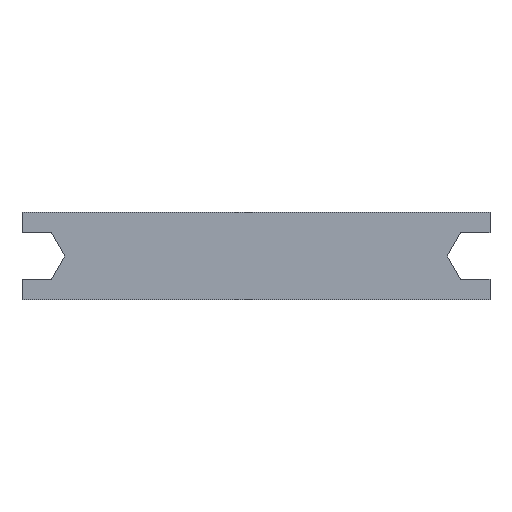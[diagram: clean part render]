
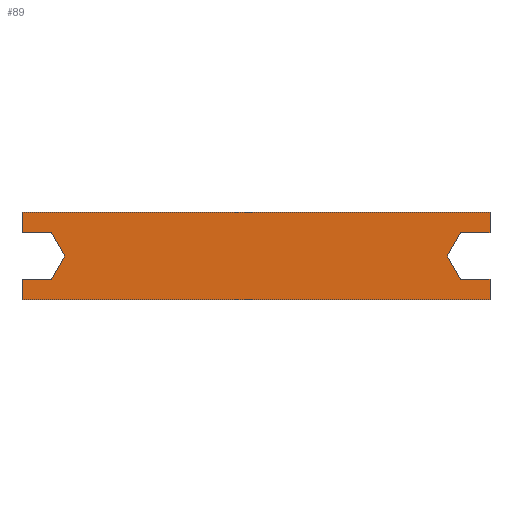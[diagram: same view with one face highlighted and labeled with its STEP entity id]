
A CAD part, top view. The second image highlights one B-rep face of the part: STEP entity #89.
In plain terms, the highlighted planar face has unit normal (0, 0, 1).
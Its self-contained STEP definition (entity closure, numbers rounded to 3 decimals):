
#89 = ADVANCED_FACE( '', ( #120 ), #121, .T. );
#120 = FACE_OUTER_BOUND( '', #152, .T. );
#121 = PLANE( '', #153 );
#152 = EDGE_LOOP( '', ( #254, #255, #256, #257, #258, #259, #260, #261, #262, #263, #264, #265, #266, #267 ) );
#153 = AXIS2_PLACEMENT_3D( '', #268, #269, #270 );
#254 = ORIENTED_EDGE( '', *, *, #298, .T. );
#255 = ORIENTED_EDGE( '', *, *, #302, .T. );
#256 = ORIENTED_EDGE( '', *, *, #295, .T. );
#257 = ORIENTED_EDGE( '', *, *, #288, .T. );
#258 = ORIENTED_EDGE( '', *, *, #292, .T. );
#259 = ORIENTED_EDGE( '', *, *, #304, .T. );
#260 = ORIENTED_EDGE( '', *, *, #307, .T. );
#261 = ORIENTED_EDGE( '', *, *, #310, .T. );
#262 = ORIENTED_EDGE( '', *, *, #313, .T. );
#263 = ORIENTED_EDGE( '', *, *, #316, .T. );
#264 = ORIENTED_EDGE( '', *, *, #319, .T. );
#265 = ORIENTED_EDGE( '', *, *, #322, .T. );
#266 = ORIENTED_EDGE( '', *, *, #325, .T. );
#267 = ORIENTED_EDGE( '', *, *, #328, .T. );
#268 = CARTESIAN_POINT( '', ( 0., 0., 0. ) );
#269 = DIRECTION( '', ( 0., 0., 1. ) );
#270 = DIRECTION( '', ( 1., 0., 0. ) );
#288 = EDGE_CURVE( '', #330, #331, #332, .T. );
#292 = EDGE_CURVE( '', #331, #338, #339, .T. );
#295 = EDGE_CURVE( '', #343, #330, #344, .T. );
#298 = EDGE_CURVE( '', #348, #349, #350, .T. );
#302 = EDGE_CURVE( '', #349, #343, #356, .T. );
#304 = EDGE_CURVE( '', #338, #358, #359, .T. );
#307 = EDGE_CURVE( '', #358, #363, #364, .T. );
#310 = EDGE_CURVE( '', #363, #368, #369, .T. );
#313 = EDGE_CURVE( '', #368, #373, #374, .T. );
#316 = EDGE_CURVE( '', #373, #378, #379, .T. );
#319 = EDGE_CURVE( '', #378, #383, #384, .T. );
#322 = EDGE_CURVE( '', #383, #388, #389, .T. );
#325 = EDGE_CURVE( '', #388, #393, #394, .T. );
#328 = EDGE_CURVE( '', #393, #348, #398, .T. );
#330 = VERTEX_POINT( '', #400 );
#331 = VERTEX_POINT( '', #401 );
#332 = LINE( '', #402, #403 );
#338 = VERTEX_POINT( '', #412 );
#339 = LINE( '', #413, #414 );
#343 = VERTEX_POINT( '', #420 );
#344 = LINE( '', #421, #422 );
#348 = VERTEX_POINT( '', #428 );
#349 = VERTEX_POINT( '', #429 );
#350 = LINE( '', #430, #431 );
#356 = LINE( '', #440, #441 );
#358 = VERTEX_POINT( '', #444 );
#359 = LINE( '', #445, #446 );
#363 = VERTEX_POINT( '', #452 );
#364 = LINE( '', #453, #454 );
#368 = VERTEX_POINT( '', #460 );
#369 = LINE( '', #461, #462 );
#373 = VERTEX_POINT( '', #468 );
#374 = LINE( '', #469, #470 );
#378 = VERTEX_POINT( '', #476 );
#379 = LINE( '', #477, #478 );
#383 = VERTEX_POINT( '', #484 );
#384 = LINE( '', #485, #486 );
#388 = VERTEX_POINT( '', #492 );
#389 = LINE( '', #493, #494 );
#393 = VERTEX_POINT( '', #500 );
#394 = LINE( '', #501, #502 );
#398 = LINE( '', #508, #509 );
#400 = CARTESIAN_POINT( '', ( 40., -7.5, 0. ) );
#401 = CARTESIAN_POINT( '', ( 40., -4., 0. ) );
#402 = CARTESIAN_POINT( '', ( 40., -7.5, 0. ) );
#403 = VECTOR( '', #512, 1000. );
#412 = CARTESIAN_POINT( '', ( 35., -4., 0. ) );
#413 = CARTESIAN_POINT( '', ( 40., -4., 0. ) );
#414 = VECTOR( '', #516, 1000. );
#420 = CARTESIAN_POINT( '', ( -40., -7.5, 0. ) );
#421 = CARTESIAN_POINT( '', ( -40., -7.5, 0. ) );
#422 = VECTOR( '', #519, 1000. );
#428 = CARTESIAN_POINT( '', ( -35., -4., 0. ) );
#429 = CARTESIAN_POINT( '', ( -40., -4., 0. ) );
#430 = CARTESIAN_POINT( '', ( -35., -4., 0. ) );
#431 = VECTOR( '', #522, 1000. );
#440 = CARTESIAN_POINT( '', ( -40., -4., 0. ) );
#441 = VECTOR( '', #526, 1000. );
#444 = CARTESIAN_POINT( '', ( 32.691, 0., 0. ) );
#445 = CARTESIAN_POINT( '', ( 35., -4., 0. ) );
#446 = VECTOR( '', #528, 1000. );
#452 = CARTESIAN_POINT( '', ( 35., 4., 0. ) );
#453 = CARTESIAN_POINT( '', ( 32.691, 0., 0. ) );
#454 = VECTOR( '', #531, 1000. );
#460 = CARTESIAN_POINT( '', ( 40., 4., 0. ) );
#461 = CARTESIAN_POINT( '', ( 35., 4., 0. ) );
#462 = VECTOR( '', #534, 1000. );
#468 = CARTESIAN_POINT( '', ( 40., 7.5, 0. ) );
#469 = CARTESIAN_POINT( '', ( 40., 4., 0. ) );
#470 = VECTOR( '', #537, 1000. );
#476 = CARTESIAN_POINT( '', ( -40., 7.5, 0. ) );
#477 = CARTESIAN_POINT( '', ( 40., 7.5, 0. ) );
#478 = VECTOR( '', #540, 1000. );
#484 = CARTESIAN_POINT( '', ( -40., 4., 0. ) );
#485 = CARTESIAN_POINT( '', ( -40., 7.5, 0. ) );
#486 = VECTOR( '', #543, 1000. );
#492 = CARTESIAN_POINT( '', ( -35., 4., 0. ) );
#493 = CARTESIAN_POINT( '', ( -40., 4., 0. ) );
#494 = VECTOR( '', #546, 1000. );
#500 = CARTESIAN_POINT( '', ( -32.691, 0., 0. ) );
#501 = CARTESIAN_POINT( '', ( -35., 4., 0. ) );
#502 = VECTOR( '', #549, 1000. );
#508 = CARTESIAN_POINT( '', ( -32.691, 0., 0. ) );
#509 = VECTOR( '', #552, 1000. );
#512 = DIRECTION( '', ( 0., 1., 0. ) );
#516 = DIRECTION( '', ( -1., 0., 0. ) );
#519 = DIRECTION( '', ( 1., 0., 0. ) );
#522 = DIRECTION( '', ( -1., 0., 0. ) );
#526 = DIRECTION( '', ( 0., -1., 0. ) );
#528 = DIRECTION( '', ( -0.5, 0.866, 0. ) );
#531 = DIRECTION( '', ( 0.5, 0.866, 0. ) );
#534 = DIRECTION( '', ( 1., 0., 0. ) );
#537 = DIRECTION( '', ( 0., 1., 0. ) );
#540 = DIRECTION( '', ( -1., 0., 0. ) );
#543 = DIRECTION( '', ( 0., -1., 0. ) );
#546 = DIRECTION( '', ( 1., 0., 0. ) );
#549 = DIRECTION( '', ( 0.5, -0.866, 0. ) );
#552 = DIRECTION( '', ( -0.5, -0.866, 0. ) );
